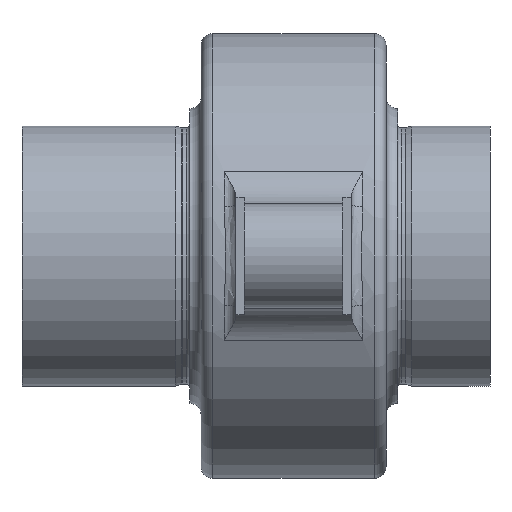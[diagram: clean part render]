
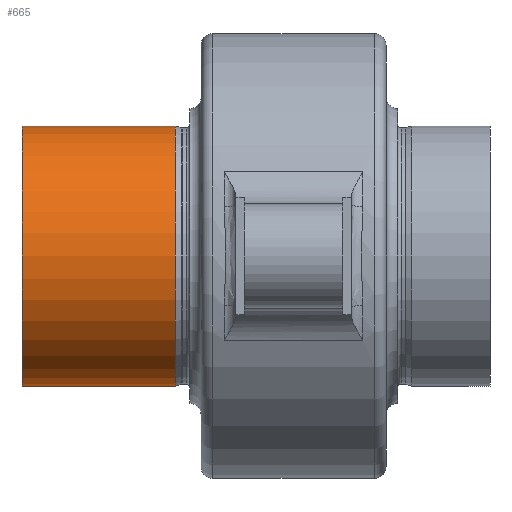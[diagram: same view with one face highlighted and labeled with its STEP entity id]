
A CAD part, front view. The second image highlights one B-rep face of the part: STEP entity #665.
In plain terms, the highlighted cylindrical face has radius 22.5 mm (diameter 45 mm), a full revolution.
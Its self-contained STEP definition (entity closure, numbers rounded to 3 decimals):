
#220=CARTESIAN_POINT('',(26.5,0.0,22.5));
#221=VERTEX_POINT('',#220);
#222=CARTESIAN_POINT('',(26.5,0.0,0.0));
#223=DIRECTION('',(-1.0,0.0,0.0));
#224=DIRECTION('',(0.0,0.0,1.0));
#225=AXIS2_PLACEMENT_3D('',#222,#223,#224);
#226=CIRCLE('',#225,22.5);
#227=EDGE_CURVE('',#221,#221,#226,.T.);
#646=CARTESIAN_POINT('',(0.0,0.0,0.0));
#647=DIRECTION('',(-1.0,0.0,0.0));
#648=DIRECTION('',(0.0,0.0,1.0));
#649=AXIS2_PLACEMENT_3D('',#646,#647,#648);
#650=CYLINDRICAL_SURFACE('',#649,22.5);
#651=ORIENTED_EDGE('',*,*,#227,.T.);
#652=EDGE_LOOP('',(#651));
#653=FACE_OUTER_BOUND('',#652,.T.);
#654=CARTESIAN_POINT('',(0.,0.0,22.5));
#655=VERTEX_POINT('',#654);
#656=CARTESIAN_POINT('',(0.,0.0,0.0));
#657=DIRECTION('',(-1.0,0.0,0.0));
#658=DIRECTION('',(0.0,0.0,1.0));
#659=AXIS2_PLACEMENT_3D('',#656,#657,#658);
#660=CIRCLE('',#659,22.5);
#661=EDGE_CURVE('',#655,#655,#660,.T.);
#662=ORIENTED_EDGE('',*,*,#661,.F.);
#663=EDGE_LOOP('',(#662));
#664=FACE_BOUND('',#663,.T.);
#665=ADVANCED_FACE('',(#653,#664),#650,.T.);
